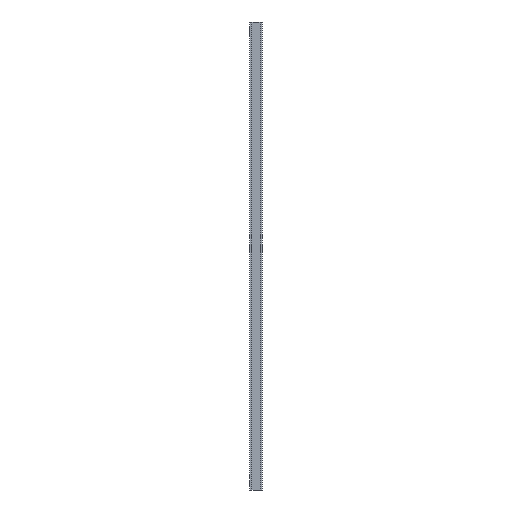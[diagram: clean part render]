
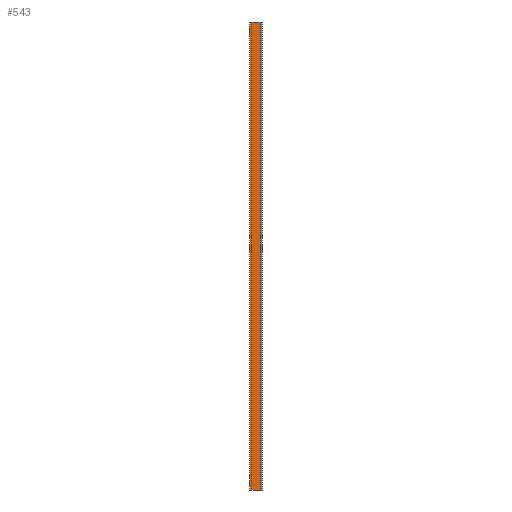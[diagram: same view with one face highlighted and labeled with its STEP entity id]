
A CAD part, left-side view. The second image highlights one B-rep face of the part: STEP entity #543.
In plain terms, the highlighted planar face has unit normal (-1, 0, 0).
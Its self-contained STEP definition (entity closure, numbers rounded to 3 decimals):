
#1 = VERTEX_POINT ( 'NONE', #1738 ) ;
#26 = ORIENTED_EDGE ( 'NONE', *, *, #328, .F. ) ;
#30 = VECTOR ( 'NONE', #221, 1000. ) ;
#45 = VECTOR ( 'NONE', #1500, 1000. ) ;
#75 = CARTESIAN_POINT ( 'NONE',  ( -8., 0., 479. ) ) ;
#91 = CARTESIAN_POINT ( 'NONE',  ( -8., 0., 479. ) ) ;
#105 = EDGE_CURVE ( 'NONE', #613, #1656, #836, .T. ) ;
#109 = DIRECTION ( 'NONE',  ( 0., -1., 0. ) ) ;
#157 = LINE ( 'NONE', #1251, #45 ) ;
#221 = DIRECTION ( 'NONE',  ( 0., 1., 0. ) ) ;
#251 = DIRECTION ( 'NONE',  ( 0., 0., -1. ) ) ;
#278 = DIRECTION ( 'NONE',  ( 0., 1., 0. ) ) ;
#328 = EDGE_CURVE ( 'NONE', #1656, #357, #690, .T. ) ;
#336 = ORIENTED_EDGE ( 'NONE', *, *, #654, .F. ) ;
#357 = VERTEX_POINT ( 'NONE', #426 ) ;
#372 = CARTESIAN_POINT ( 'NONE',  ( -8., 12.5, 0. ) ) ;
#426 = CARTESIAN_POINT ( 'NONE',  ( -8., 0., 0. ) ) ;
#466 = CARTESIAN_POINT ( 'NONE',  ( -8., 9.3, 479. ) ) ;
#543 = ADVANCED_FACE ( 'NONE', ( #1687 ), #1284, .T. ) ;
#580 = DIRECTION ( 'NONE',  ( 0., 0., -1. ) ) ;
#612 = VERTEX_POINT ( 'NONE', #372 ) ;
#613 = VERTEX_POINT ( 'NONE', #1199 ) ;
#630 = DIRECTION ( 'NONE',  ( -1., 0., 0. ) ) ;
#647 = VECTOR ( 'NONE', #109, 1000. ) ;
#654 = EDGE_CURVE ( 'NONE', #1, #1000, #1594, .T. ) ;
#676 = EDGE_CURVE ( 'NONE', #875, #612, #1338, .T. ) ;
#677 = AXIS2_PLACEMENT_3D ( 'NONE', #91, #630, #1172 ) ;
#690 = LINE ( 'NONE', #1109, #762 ) ;
#760 = ORIENTED_EDGE ( 'NONE', *, *, #872, .T. ) ;
#762 = VECTOR ( 'NONE', #580, 1000. ) ;
#836 = LINE ( 'NONE', #1244, #1762 ) ;
#855 = ORIENTED_EDGE ( 'NONE', *, *, #1220, .T. ) ;
#872 = EDGE_CURVE ( 'NONE', #613, #881, #892, .T. ) ;
#875 = VERTEX_POINT ( 'NONE', #1145 ) ;
#881 = VERTEX_POINT ( 'NONE', #466 ) ;
#892 = LINE ( 'NONE', #75, #30 ) ;
#975 = CARTESIAN_POINT ( 'NONE',  ( -8., 0., 479. ) ) ;
#988 = VECTOR ( 'NONE', #251, 1000. ) ;
#1000 = VERTEX_POINT ( 'NONE', #1278 ) ;
#1082 = CARTESIAN_POINT ( 'NONE',  ( -8., 0., 0. ) ) ;
#1109 = CARTESIAN_POINT ( 'NONE',  ( -8., 0., 479. ) ) ;
#1145 = CARTESIAN_POINT ( 'NONE',  ( -8., 12.5, 479. ) ) ;
#1172 = DIRECTION ( 'NONE',  ( 0., 0., 1. ) ) ;
#1199 = CARTESIAN_POINT ( 'NONE',  ( -8., 3.2, 479. ) ) ;
#1208 = EDGE_CURVE ( 'NONE', #881, #875, #1502, .T. ) ;
#1220 = EDGE_CURVE ( 'NONE', #1, #357, #1736, .T. ) ;
#1244 = CARTESIAN_POINT ( 'NONE',  ( -8., 0., 479. ) ) ;
#1251 = CARTESIAN_POINT ( 'NONE',  ( -8., 0., 0. ) ) ;
#1278 = CARTESIAN_POINT ( 'NONE',  ( -8., 9.3, 0. ) ) ;
#1284 = PLANE ( 'NONE',  #677 ) ;
#1291 = ORIENTED_EDGE ( 'NONE', *, *, #676, .T. ) ;
#1310 = EDGE_LOOP ( 'NONE', ( #336, #855, #26, #1571, #760, #1691, #1291, #1587 ) ) ;
#1338 = LINE ( 'NONE', #1581, #988 ) ;
#1373 = VECTOR ( 'NONE', #278, 1000. ) ;
#1456 = CARTESIAN_POINT ( 'NONE',  ( -8., 0., 0. ) ) ;
#1470 = DIRECTION ( 'NONE',  ( 0., 1., 0. ) ) ;
#1500 = DIRECTION ( 'NONE',  ( 0., 1., 0. ) ) ;
#1502 = LINE ( 'NONE', #1599, #1373 ) ;
#1571 = ORIENTED_EDGE ( 'NONE', *, *, #105, .F. ) ;
#1581 = CARTESIAN_POINT ( 'NONE',  ( -8., 12.5, 479. ) ) ;
#1587 = ORIENTED_EDGE ( 'NONE', *, *, #1609, .F. ) ;
#1594 = LINE ( 'NONE', #1456, #1644 ) ;
#1599 = CARTESIAN_POINT ( 'NONE',  ( -8., 12.5, 479. ) ) ;
#1609 = EDGE_CURVE ( 'NONE', #1000, #612, #157, .T. ) ;
#1631 = DIRECTION ( 'NONE',  ( 0., -1., 0. ) ) ;
#1644 = VECTOR ( 'NONE', #1470, 1000. ) ;
#1656 = VERTEX_POINT ( 'NONE', #975 ) ;
#1687 = FACE_OUTER_BOUND ( 'NONE', #1310, .T. ) ;
#1691 = ORIENTED_EDGE ( 'NONE', *, *, #1208, .T. ) ;
#1736 = LINE ( 'NONE', #1082, #647 ) ;
#1738 = CARTESIAN_POINT ( 'NONE',  ( -8., 3.2, 0. ) ) ;
#1762 = VECTOR ( 'NONE', #1631, 1000. ) ;
